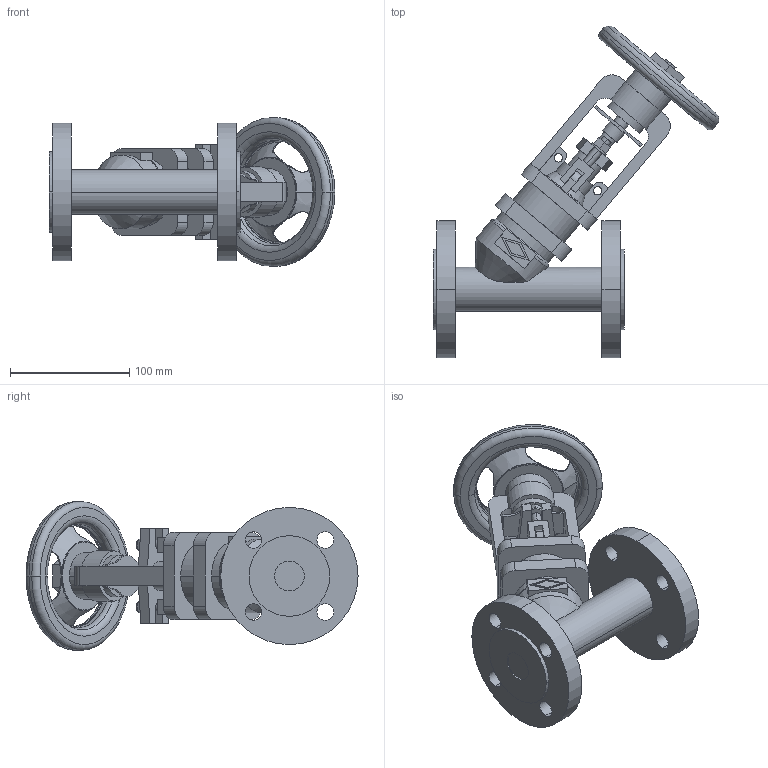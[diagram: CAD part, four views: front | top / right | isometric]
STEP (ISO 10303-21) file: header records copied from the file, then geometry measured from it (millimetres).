
FILE_DESCRIPTION(('OneSpaceDesigner STEP Export'),'2;1');
FILE_NAME('c000004392.stp','2010-05-07T 9:35:48',(''),(''),'OneSpace Designer STEP processor for AP214 (Solid Model)','OneSpace Modeling 15.50B 03-Nov-2007 (C) CoCreate Software GmbH','');
FILE_SCHEMA(('AUTOMOTIVE_DESIGN { 1 0 10303 214 1 1 1 1 }'));
Length unit declared in the file: millimetre
Products named in the file (1): 1
Bounding box: 239.34 x 278.13 x 125 mm (x, y, z)
Volume: 1006345.9 mm3; surface area: 167242.4 mm2
Topology: 1 solids, 1 shells, 294 faces, 781 edges, 512 vertices
Faces by surface type: plane 140, cylinder 113, torus 27, cone 14
Entity records: 11518 total; most frequent: CARTESIAN_POINT 2212, ORIENTED_EDGE 1554, DIRECTION 1296, EDGE_CURVE 777, VERTEX_POINT 508, AXIS2_PLACEMENT_3D 439, VECTOR 418, LINE 418
